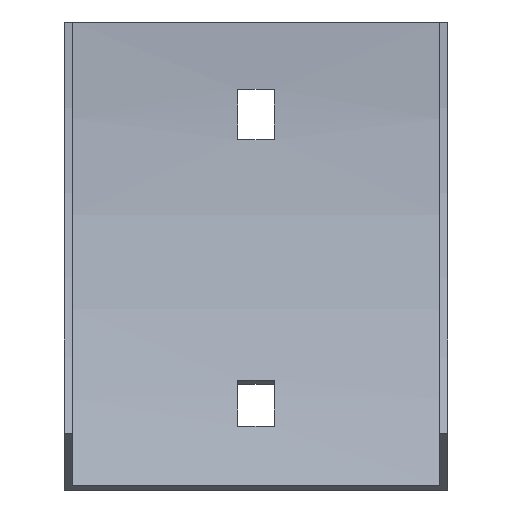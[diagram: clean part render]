
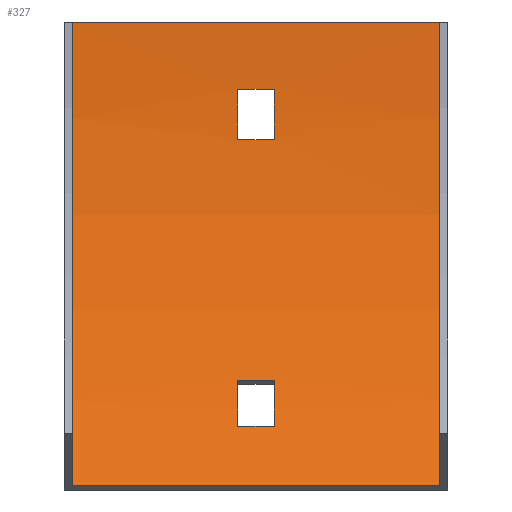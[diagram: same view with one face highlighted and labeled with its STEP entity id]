
A CAD part, front view. The second image highlights one B-rep face of the part: STEP entity #327.
In plain terms, the highlighted cylindrical face has radius 165.5 mm (diameter 331 mm), a partial arc.
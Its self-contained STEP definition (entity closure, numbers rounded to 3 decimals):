
#8 = VECTOR ( 'NONE', #346, 1000. ) ;
#13 = CARTESIAN_POINT ( 'NONE',  ( 34.25, -1.936, -12. ) ) ;
#18 = CIRCLE ( 'NONE', #201, 165.5 ) ;
#31 = VERTEX_POINT ( 'NONE', #409 ) ;
#32 = DIRECTION ( 'NONE',  ( 0., 0., 1. ) ) ;
#36 = DIRECTION ( 'NONE',  ( 0., 0., 1. ) ) ;
#39 = DIRECTION ( 'NONE',  ( 1., 0., 0. ) ) ;
#40 = EDGE_CURVE ( 'NONE', #299, #225, #185, .T. ) ;
#47 = VERTEX_POINT ( 'NONE', #500 ) ;
#49 = EDGE_CURVE ( 'NONE', #580, #47, #18, .T. ) ;
#51 = CIRCLE ( 'NONE', #559, 165.5 ) ;
#53 = CARTESIAN_POINT ( 'NONE',  ( 3.25, -167., 0. ) ) ;
#78 = VERTEX_POINT ( 'NONE', #134 ) ;
#82 = EDGE_CURVE ( 'NONE', #107, #31, #243, .T. ) ;
#92 = EDGE_CURVE ( 'NONE', #156, #252, #371, .T. ) ;
#93 = EDGE_CURVE ( 'NONE', #31, #252, #553, .T. ) ;
#99 = ORIENTED_EDGE ( 'NONE', *, *, #431, .T. ) ;
#102 = DIRECTION ( 'NONE',  ( 1., 0., 0. ) ) ;
#106 = AXIS2_PLACEMENT_3D ( 'NONE', #53, #422, #562 ) ;
#107 = VERTEX_POINT ( 'NONE', #308 ) ;
#131 = CARTESIAN_POINT ( 'NONE',  ( 32.75, -167., 0. ) ) ;
#134 = CARTESIAN_POINT ( 'NONE',  ( 3.25, -14.331, -63.895 ) ) ;
#137 = VECTOR ( 'NONE', #565, 1000. ) ;
#142 = CARTESIAN_POINT ( 'NONE',  ( -32.75, -1.5, 0. ) ) ;
#146 = LINE ( 'NONE', #13, #353 ) ;
#149 = ORIENTED_EDGE ( 'NONE', *, *, #485, .F. ) ;
#156 = VERTEX_POINT ( 'NONE', #406 ) ;
#162 = CARTESIAN_POINT ( 'NONE',  ( -3.25, -2.838, -21. ) ) ;
#163 = ORIENTED_EDGE ( 'NONE', *, *, #82, .T. ) ;
#175 = VECTOR ( 'NONE', #588, 1000. ) ;
#181 = CARTESIAN_POINT ( 'NONE',  ( 3.25, -167., 0. ) ) ;
#185 = CIRCLE ( 'NONE', #520, 165.5 ) ;
#191 = CARTESIAN_POINT ( 'NONE',  ( 34.25, -2.838, -21. ) ) ;
#193 = AXIS2_PLACEMENT_3D ( 'NONE', #397, #270, #217 ) ;
#201 = AXIS2_PLACEMENT_3D ( 'NONE', #407, #443, #233 ) ;
#202 = ORIENTED_EDGE ( 'NONE', *, *, #49, .T. ) ;
#215 = ORIENTED_EDGE ( 'NONE', *, *, #539, .T. ) ;
#217 = DIRECTION ( 'NONE',  ( 0., 0., 1. ) ) ;
#220 = CARTESIAN_POINT ( 'NONE',  ( 34.25, -18.05, -72.14 ) ) ;
#224 = DIRECTION ( 'NONE',  ( 0., 0., 1. ) ) ;
#225 = VERTEX_POINT ( 'NONE', #286 ) ;
#228 = CARTESIAN_POINT ( 'NONE',  ( 32.75, -1.5, 0. ) ) ;
#231 = DIRECTION ( 'NONE',  ( 1., 0., 0. ) ) ;
#233 = DIRECTION ( 'NONE',  ( 0., 0., -1. ) ) ;
#241 = EDGE_LOOP ( 'NONE', ( #532, #372, #480, #256 ) ) ;
#243 = CIRCLE ( 'NONE', #261, 165.5 ) ;
#246 = EDGE_CURVE ( 'NONE', #78, #385, #466, .T. ) ;
#252 = VERTEX_POINT ( 'NONE', #142 ) ;
#253 = EDGE_CURVE ( 'NONE', #288, #299, #514, .T. ) ;
#256 = ORIENTED_EDGE ( 'NONE', *, *, #253, .F. ) ;
#261 = AXIS2_PLACEMENT_3D ( 'NONE', #131, #39, #32 ) ;
#270 = DIRECTION ( 'NONE',  ( 1., 0., 0. ) ) ;
#275 = AXIS2_PLACEMENT_3D ( 'NONE', #488, #320, #36 ) ;
#286 = CARTESIAN_POINT ( 'NONE',  ( 3.25, -1.936, -12. ) ) ;
#288 = VERTEX_POINT ( 'NONE', #162 ) ;
#299 = VERTEX_POINT ( 'NONE', #382 ) ;
#305 = CARTESIAN_POINT ( 'NONE',  ( 3.25, -18.05, -72.14 ) ) ;
#308 = CARTESIAN_POINT ( 'NONE',  ( 32.75, -23.673, -82.75 ) ) ;
#320 = DIRECTION ( 'NONE',  ( -1., 0., 0. ) ) ;
#323 = VECTOR ( 'NONE', #438, 1000. ) ;
#327 = ADVANCED_FACE ( 'NONE', ( #573, #579, #337 ), #523, .F. ) ;
#337 = FACE_BOUND ( 'NONE', #506, .T. ) ;
#339 = ORIENTED_EDGE ( 'NONE', *, *, #246, .T. ) ;
#346 = DIRECTION ( 'NONE',  ( -1., 0., 0. ) ) ;
#353 = VECTOR ( 'NONE', #577, 1000. ) ;
#361 = CARTESIAN_POINT ( 'NONE',  ( -3.25, -167., 0. ) ) ;
#362 = DIRECTION ( 'NONE',  ( 0., 0., -1. ) ) ;
#371 = CIRCLE ( 'NONE', #193, 165.5 ) ;
#372 = ORIENTED_EDGE ( 'NONE', *, *, #527, .F. ) ;
#375 = VERTEX_POINT ( 'NONE', #501 ) ;
#376 = CARTESIAN_POINT ( 'NONE',  ( 34.25, -14.331, -63.895 ) ) ;
#382 = CARTESIAN_POINT ( 'NONE',  ( 3.25, -2.838, -21. ) ) ;
#385 = VERTEX_POINT ( 'NONE', #305 ) ;
#395 = CARTESIAN_POINT ( 'NONE',  ( -3.25, -18.05, -72.14 ) ) ;
#397 = CARTESIAN_POINT ( 'NONE',  ( -32.75, -167., 0. ) ) ;
#406 = CARTESIAN_POINT ( 'NONE',  ( -32.75, -23.673, -82.75 ) ) ;
#407 = CARTESIAN_POINT ( 'NONE',  ( -3.25, -167., 0. ) ) ;
#409 = CARTESIAN_POINT ( 'NONE',  ( 32.75, -1.5, 0. ) ) ;
#411 = ORIENTED_EDGE ( 'NONE', *, *, #93, .T. ) ;
#417 = VECTOR ( 'NONE', #102, 1000. ) ;
#422 = DIRECTION ( 'NONE',  ( -1., 0., 0. ) ) ;
#430 = EDGE_CURVE ( 'NONE', #375, #288, #51, .T. ) ;
#431 = EDGE_CURVE ( 'NONE', #385, #580, #554, .T. ) ;
#438 = DIRECTION ( 'NONE',  ( -1., 0., 0. ) ) ;
#443 = DIRECTION ( 'NONE',  ( 1., 0., 0. ) ) ;
#449 = DIRECTION ( 'NONE',  ( -1., 0., 0. ) ) ;
#466 = CIRCLE ( 'NONE', #106, 165.5 ) ;
#478 = EDGE_LOOP ( 'NONE', ( #486, #149, #163, #411 ) ) ;
#480 = ORIENTED_EDGE ( 'NONE', *, *, #40, .F. ) ;
#485 = EDGE_CURVE ( 'NONE', #107, #156, #504, .T. ) ;
#486 = ORIENTED_EDGE ( 'NONE', *, *, #92, .F. ) ;
#488 = CARTESIAN_POINT ( 'NONE',  ( 34.25, -167., 0. ) ) ;
#500 = CARTESIAN_POINT ( 'NONE',  ( -3.25, -14.331, -63.895 ) ) ;
#501 = CARTESIAN_POINT ( 'NONE',  ( -3.25, -1.936, -12. ) ) ;
#504 = LINE ( 'NONE', #549, #323 ) ;
#506 = EDGE_LOOP ( 'NONE', ( #99, #202, #215, #339 ) ) ;
#514 = LINE ( 'NONE', #191, #137 ) ;
#516 = LINE ( 'NONE', #376, #417 ) ;
#520 = AXIS2_PLACEMENT_3D ( 'NONE', #181, #231, #362 ) ;
#523 = CYLINDRICAL_SURFACE ( 'NONE', #275, 165.5 ) ;
#527 = EDGE_CURVE ( 'NONE', #225, #375, #146, .T. ) ;
#532 = ORIENTED_EDGE ( 'NONE', *, *, #430, .F. ) ;
#539 = EDGE_CURVE ( 'NONE', #47, #78, #516, .T. ) ;
#549 = CARTESIAN_POINT ( 'NONE',  ( 32.75, -23.673, -82.75 ) ) ;
#553 = LINE ( 'NONE', #228, #8 ) ;
#554 = LINE ( 'NONE', #220, #175 ) ;
#559 = AXIS2_PLACEMENT_3D ( 'NONE', #361, #449, #224 ) ;
#562 = DIRECTION ( 'NONE',  ( 0., 0., 1. ) ) ;
#565 = DIRECTION ( 'NONE',  ( 1., 0., 0. ) ) ;
#573 = FACE_BOUND ( 'NONE', #241, .T. ) ;
#577 = DIRECTION ( 'NONE',  ( -1., 0., 0. ) ) ;
#579 = FACE_OUTER_BOUND ( 'NONE', #478, .T. ) ;
#580 = VERTEX_POINT ( 'NONE', #395 ) ;
#588 = DIRECTION ( 'NONE',  ( -1., 0., 0. ) ) ;
